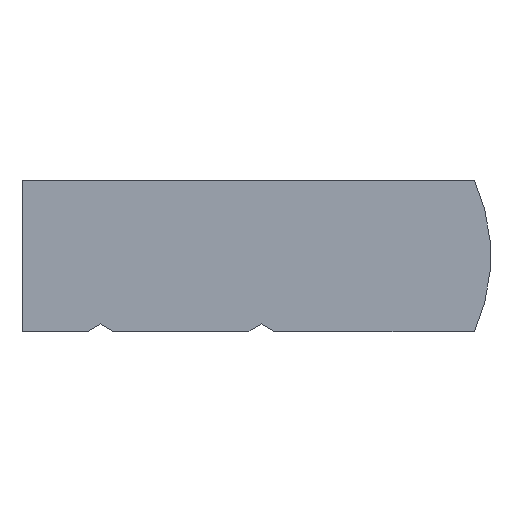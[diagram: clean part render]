
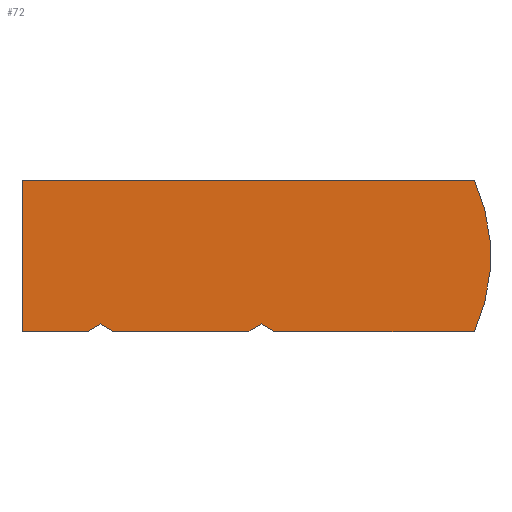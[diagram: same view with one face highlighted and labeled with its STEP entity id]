
A CAD part, top view. The second image highlights one B-rep face of the part: STEP entity #72.
In plain terms, the highlighted planar face has unit normal (0, 0, 1).
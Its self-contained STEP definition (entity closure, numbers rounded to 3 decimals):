
#53=CIRCLE('',#352,35.);
#72=ADVANCED_FACE('',(#107),#91,.T.);
#91=PLANE('',#359);
#107=FACE_OUTER_BOUND('',#122,.T.);
#122=EDGE_LOOP('',(#180,#181,#182,#183,#184,#185,#186,#187,#188,#189));
#180=ORIENTED_EDGE('',*,*,#246,.T.);
#181=ORIENTED_EDGE('',*,*,#250,.T.);
#182=ORIENTED_EDGE('',*,*,#253,.T.);
#183=ORIENTED_EDGE('',*,*,#256,.T.);
#184=ORIENTED_EDGE('',*,*,#259,.T.);
#185=ORIENTED_EDGE('',*,*,#262,.T.);
#186=ORIENTED_EDGE('',*,*,#265,.T.);
#187=ORIENTED_EDGE('',*,*,#268,.T.);
#188=ORIENTED_EDGE('',*,*,#271,.T.);
#189=ORIENTED_EDGE('',*,*,#273,.T.);
#218=VERTEX_POINT('',#473);
#219=VERTEX_POINT('',#475);
#221=VERTEX_POINT('',#481);
#223=VERTEX_POINT('',#487);
#225=VERTEX_POINT('',#493);
#227=VERTEX_POINT('',#499);
#229=VERTEX_POINT('',#505);
#231=VERTEX_POINT('',#511);
#233=VERTEX_POINT('',#517);
#235=VERTEX_POINT('',#523);
#246=EDGE_CURVE('',#219,#218,#284,.T.);
#250=EDGE_CURVE('',#218,#221,#288,.T.);
#253=EDGE_CURVE('',#221,#223,#291,.T.);
#256=EDGE_CURVE('',#223,#225,#294,.T.);
#259=EDGE_CURVE('',#225,#227,#53,.T.);
#262=EDGE_CURVE('',#227,#229,#298,.T.);
#265=EDGE_CURVE('',#229,#231,#301,.T.);
#268=EDGE_CURVE('',#231,#233,#304,.T.);
#271=EDGE_CURVE('',#233,#235,#307,.T.);
#273=EDGE_CURVE('',#235,#219,#309,.T.);
#284=LINE('',#474,#312);
#288=LINE('',#482,#316);
#291=LINE('',#488,#319);
#294=LINE('',#494,#322);
#298=LINE('',#506,#326);
#301=LINE('',#512,#329);
#304=LINE('',#518,#332);
#307=LINE('',#524,#335);
#309=LINE('',#527,#337);
#312=VECTOR('',#381,1.);
#316=VECTOR('',#387,1.);
#319=VECTOR('',#392,1.);
#322=VECTOR('',#397,1.);
#326=VECTOR('',#409,1.);
#329=VECTOR('',#414,1.);
#332=VECTOR('',#419,1.);
#335=VECTOR('',#424,1.);
#337=VECTOR('',#428,1.);
#352=AXIS2_PLACEMENT_3D('',#500,#403,#404);
#359=AXIS2_PLACEMENT_3D('',#529,#431,#432);
#381=DIRECTION('',(1.,0.,0.));
#387=DIRECTION('',(0.859,0.512,0.));
#392=DIRECTION('',(0.86,-0.511,0.));
#397=DIRECTION('',(1.,0.,0.));
#403=DIRECTION('',(0.,0.,1.));
#404=DIRECTION('',(1.,0.,0.));
#409=DIRECTION('',(-1.,0.,0.));
#414=DIRECTION('',(0.,-1.,0.));
#419=DIRECTION('',(1.,0.,0.));
#424=DIRECTION('',(0.857,0.516,0.));
#428=DIRECTION('',(0.857,-0.515,0.));
#431=DIRECTION('',(0.,0.,1.));
#432=DIRECTION('',(1.,0.,0.));
#473=CARTESIAN_POINT('',(13.085,-14.4,0.8));
#474=CARTESIAN_POINT('',(-12.4,-14.4,0.8));
#475=CARTESIAN_POINT('',(-12.4,-14.4,0.8));
#481=CARTESIAN_POINT('',(15.6,-12.9,0.8));
#482=CARTESIAN_POINT('',(13.085,-14.4,0.8));
#487=CARTESIAN_POINT('',(18.127,-14.4,0.8));
#488=CARTESIAN_POINT('',(15.6,-12.9,0.8));
#493=CARTESIAN_POINT('',(56.1,-14.4,0.8));
#494=CARTESIAN_POINT('',(18.127,-14.4,0.8));
#499=CARTESIAN_POINT('',(56.1,14.4,0.8));
#500=CARTESIAN_POINT('',(24.2,0.,0.8));
#505=CARTESIAN_POINT('',(-29.85,14.4,0.8));
#506=CARTESIAN_POINT('',(56.1,14.4,0.8));
#511=CARTESIAN_POINT('',(-29.85,-14.4,0.8));
#512=CARTESIAN_POINT('',(-29.85,14.4,0.8));
#517=CARTESIAN_POINT('',(-17.399,-14.4,0.8));
#518=CARTESIAN_POINT('',(-29.85,-14.4,0.8));
#523=CARTESIAN_POINT('',(-14.9,-12.897,0.8));
#524=CARTESIAN_POINT('',(-17.399,-14.4,0.8));
#527=CARTESIAN_POINT('',(-14.9,-12.897,0.8));
#529=CARTESIAN_POINT('',(24.2,0.,0.8));
